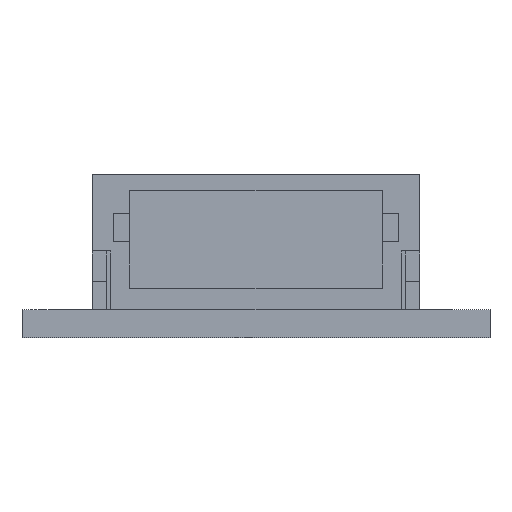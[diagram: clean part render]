
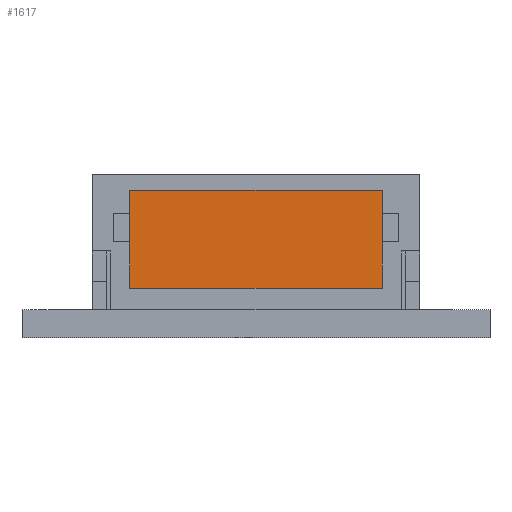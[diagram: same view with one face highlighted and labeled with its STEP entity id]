
A CAD part, front view. The second image highlights one B-rep face of the part: STEP entity #1617.
In plain terms, the highlighted planar face has unit normal (0, -1, 0).
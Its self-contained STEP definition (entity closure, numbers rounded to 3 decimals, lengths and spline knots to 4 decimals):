
#730 = PLANE('',#731);
#731 = AXIS2_PLACEMENT_3D('',#732,#733,#734);
#732 = CARTESIAN_POINT('',(17.7,11.125,3.155));
#733 = DIRECTION('',(1.,0.,0.));
#734 = DIRECTION('',(0.,0.,1.));
#811 = VERTEX_POINT('',#812);
#812 = CARTESIAN_POINT('',(17.7,11.125,3.155));
#826 = PLANE('',#827);
#827 = AXIS2_PLACEMENT_3D('',#828,#829,#830);
#828 = CARTESIAN_POINT('',(15.3,11.125,3.155));
#829 = DIRECTION('',(0.,0.,1.));
#830 = DIRECTION('',(-1.,0.,0.));
#838 = EDGE_CURVE('',#811,#839,#841,.T.);
#839 = VERTEX_POINT('',#840);
#840 = CARTESIAN_POINT('',(17.7,11.125,1.055));
#841 = SURFACE_CURVE('',#842,(#846,#853),.PCURVE_S1.);
#842 = LINE('',#843,#844);
#843 = CARTESIAN_POINT('',(17.7,11.125,3.155));
#844 = VECTOR('',#845,1.);
#845 = DIRECTION('',(0.,0.,-1.));
#846 = PCURVE('',#730,#847);
#847 = DEFINITIONAL_REPRESENTATION('',(#848),#852);
#848 = LINE('',#849,#850);
#849 = CARTESIAN_POINT('',(0.,0.));
#850 = VECTOR('',#851,1.);
#851 = DIRECTION('',(-1.,0.));
#852 = ( GEOMETRIC_REPRESENTATION_CONTEXT(2) 
PARAMETRIC_REPRESENTATION_CONTEXT() REPRESENTATION_CONTEXT('2D SPACE',''
  ) );
#853 = PCURVE('',#854,#859);
#854 = PLANE('',#855);
#855 = AXIS2_PLACEMENT_3D('',#856,#857,#858);
#856 = CARTESIAN_POINT('',(17.7,11.125,3.155));
#857 = DIRECTION('',(0.,-1.,0.));
#858 = DIRECTION('',(0.,0.,1.));
#859 = DEFINITIONAL_REPRESENTATION('',(#860),#864);
#860 = LINE('',#861,#862);
#861 = CARTESIAN_POINT('',(0.,0.));
#862 = VECTOR('',#863,1.);
#863 = DIRECTION('',(-1.,0.));
#864 = ( GEOMETRIC_REPRESENTATION_CONTEXT(2) 
PARAMETRIC_REPRESENTATION_CONTEXT() REPRESENTATION_CONTEXT('2D SPACE',''
  ) );
#882 = PLANE('',#883);
#883 = AXIS2_PLACEMENT_3D('',#884,#885,#886);
#884 = CARTESIAN_POINT('',(17.7,11.125,1.055));
#885 = DIRECTION('',(0.,0.,-1.));
#886 = DIRECTION('',(1.,0.,0.));
#1382 = PLANE('',#1383);
#1383 = AXIS2_PLACEMENT_3D('',#1384,#1385,#1386);
#1384 = CARTESIAN_POINT('',(12.3,11.125,3.155));
#1385 = DIRECTION('',(-1.,0.,0.));
#1386 = DIRECTION('',(0.,-1.,0.));
#1573 = EDGE_CURVE('',#1574,#811,#1576,.T.);
#1574 = VERTEX_POINT('',#1575);
#1575 = CARTESIAN_POINT('',(12.3,11.125,3.155));
#1576 = SURFACE_CURVE('',#1577,(#1581,#1588),.PCURVE_S1.);
#1577 = LINE('',#1578,#1579);
#1578 = CARTESIAN_POINT('',(12.3,11.125,3.155));
#1579 = VECTOR('',#1580,1.);
#1580 = DIRECTION('',(1.,0.,0.));
#1581 = PCURVE('',#826,#1582);
#1582 = DEFINITIONAL_REPRESENTATION('',(#1583),#1587);
#1583 = LINE('',#1584,#1585);
#1584 = CARTESIAN_POINT('',(3.,0.));
#1585 = VECTOR('',#1586,1.);
#1586 = DIRECTION('',(-1.,0.));
#1587 = ( GEOMETRIC_REPRESENTATION_CONTEXT(2) 
PARAMETRIC_REPRESENTATION_CONTEXT() REPRESENTATION_CONTEXT('2D SPACE',''
  ) );
#1588 = PCURVE('',#854,#1589);
#1589 = DEFINITIONAL_REPRESENTATION('',(#1590),#1594);
#1590 = LINE('',#1591,#1592);
#1591 = CARTESIAN_POINT('',(0.,5.4));
#1592 = VECTOR('',#1593,1.);
#1593 = DIRECTION('',(0.,-1.));
#1594 = ( GEOMETRIC_REPRESENTATION_CONTEXT(2) 
PARAMETRIC_REPRESENTATION_CONTEXT() REPRESENTATION_CONTEXT('2D SPACE',''
  ) );
#1617 = ADVANCED_FACE('',(#1618),#854,.T.);
#1618 = FACE_BOUND('',#1619,.T.);
#1619 = EDGE_LOOP('',(#1620,#1621,#1622,#1645));
#1620 = ORIENTED_EDGE('',*,*,#838,.F.);
#1621 = ORIENTED_EDGE('',*,*,#1573,.F.);
#1622 = ORIENTED_EDGE('',*,*,#1623,.T.);
#1623 = EDGE_CURVE('',#1574,#1624,#1626,.T.);
#1624 = VERTEX_POINT('',#1625);
#1625 = CARTESIAN_POINT('',(12.3,11.125,1.055));
#1626 = SURFACE_CURVE('',#1627,(#1631,#1638),.PCURVE_S1.);
#1627 = LINE('',#1628,#1629);
#1628 = CARTESIAN_POINT('',(12.3,11.125,3.155));
#1629 = VECTOR('',#1630,1.);
#1630 = DIRECTION('',(0.,0.,-1.));
#1631 = PCURVE('',#854,#1632);
#1632 = DEFINITIONAL_REPRESENTATION('',(#1633),#1637);
#1633 = LINE('',#1634,#1635);
#1634 = CARTESIAN_POINT('',(0.,5.4));
#1635 = VECTOR('',#1636,1.);
#1636 = DIRECTION('',(-1.,0.));
#1637 = ( GEOMETRIC_REPRESENTATION_CONTEXT(2) 
PARAMETRIC_REPRESENTATION_CONTEXT() REPRESENTATION_CONTEXT('2D SPACE',''
  ) );
#1638 = PCURVE('',#1382,#1639);
#1639 = DEFINITIONAL_REPRESENTATION('',(#1640),#1644);
#1640 = LINE('',#1641,#1642);
#1641 = CARTESIAN_POINT('',(0.,0.));
#1642 = VECTOR('',#1643,1.);
#1643 = DIRECTION('',(0.,-1.));
#1644 = ( GEOMETRIC_REPRESENTATION_CONTEXT(2) 
PARAMETRIC_REPRESENTATION_CONTEXT() REPRESENTATION_CONTEXT('2D SPACE',''
  ) );
#1645 = ORIENTED_EDGE('',*,*,#1646,.T.);
#1646 = EDGE_CURVE('',#1624,#839,#1647,.T.);
#1647 = SURFACE_CURVE('',#1648,(#1652,#1659),.PCURVE_S1.);
#1648 = LINE('',#1649,#1650);
#1649 = CARTESIAN_POINT('',(12.3,11.125,1.055));
#1650 = VECTOR('',#1651,1.);
#1651 = DIRECTION('',(1.,0.,0.));
#1652 = PCURVE('',#854,#1653);
#1653 = DEFINITIONAL_REPRESENTATION('',(#1654),#1658);
#1654 = LINE('',#1655,#1656);
#1655 = CARTESIAN_POINT('',(-2.1,5.4));
#1656 = VECTOR('',#1657,1.);
#1657 = DIRECTION('',(0.,-1.));
#1658 = ( GEOMETRIC_REPRESENTATION_CONTEXT(2) 
PARAMETRIC_REPRESENTATION_CONTEXT() REPRESENTATION_CONTEXT('2D SPACE',''
  ) );
#1659 = PCURVE('',#882,#1660);
#1660 = DEFINITIONAL_REPRESENTATION('',(#1661),#1665);
#1661 = LINE('',#1662,#1663);
#1662 = CARTESIAN_POINT('',(-5.4,0.));
#1663 = VECTOR('',#1664,1.);
#1664 = DIRECTION('',(1.,0.));
#1665 = ( GEOMETRIC_REPRESENTATION_CONTEXT(2) 
PARAMETRIC_REPRESENTATION_CONTEXT() REPRESENTATION_CONTEXT('2D SPACE',''
  ) );
